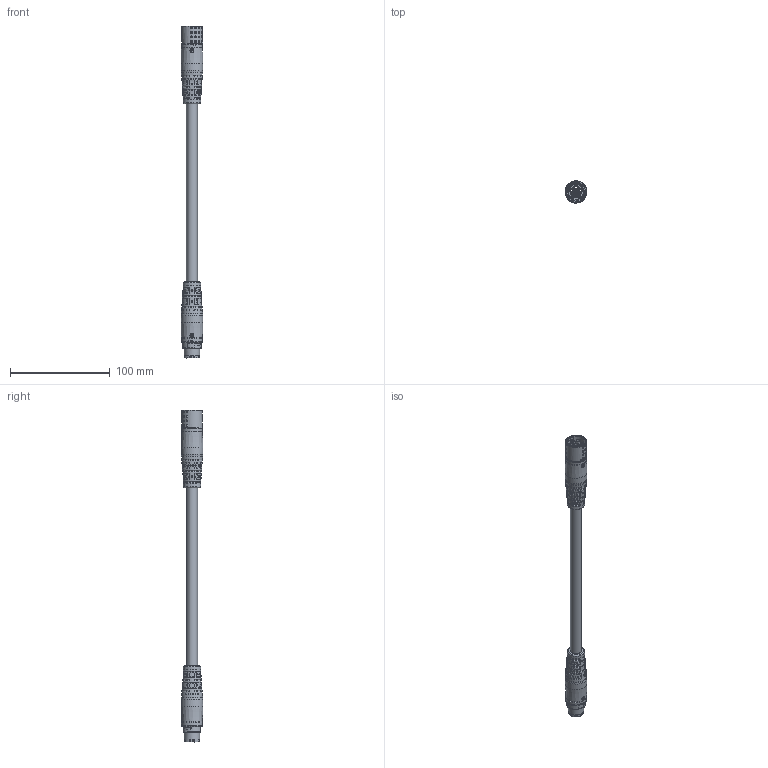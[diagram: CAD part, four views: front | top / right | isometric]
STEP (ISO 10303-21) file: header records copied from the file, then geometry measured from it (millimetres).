
FILE_DESCRIPTION (( 'STEP AP203' ), '1' );
FILE_NAME ('1138014_W-TEC_15K_STI_BU_STEP.STEP', '2023-09-05T08:10:25', ( '' ), ( '' ), 'SwSTEP 2.0', 'SolidWorks 2021', '' );
FILE_SCHEMA (( 'CONFIG_CONTROL_DESIGN' ));
Products named in the file (1): 1138014_W-TEC_15K_STI_BU_STEP
Bounding box: 21.79 x 21.87 x 332.06 mm (x, y, z)
Surface area: 22087 mm2 (no closed solid volume)
Topology: 0 solids, 26 shells, 909 faces, 3651 edges, 2551 vertices
Faces by surface type: bspline 366, plane 253, cylinder 218, cone 50, torus 19, sphere 3
Full cylindrical faces by diameter (mm): 1.6 x3, 3.3 x6, 4 x2, 4.2 x3, 4.4 x3, 11.1 x1, 15.2 x1, 15.4 x1, 17.384 x2, 18.304 x1, 18.4 x1, 21.24 x2, 21.72 x2
Entity records: 61061 total; most frequent: CARTESIAN_POINT 37143, ORIENTED_EDGE 5252, EDGE_CURVE 3461, DIRECTION 3439, VERTEX_POINT 2499, B_SPLINE_CURVE_WITH_KNOTS 1657, AXIS2_PLACEMENT_3D 1241, EDGE_LOOP 1085
